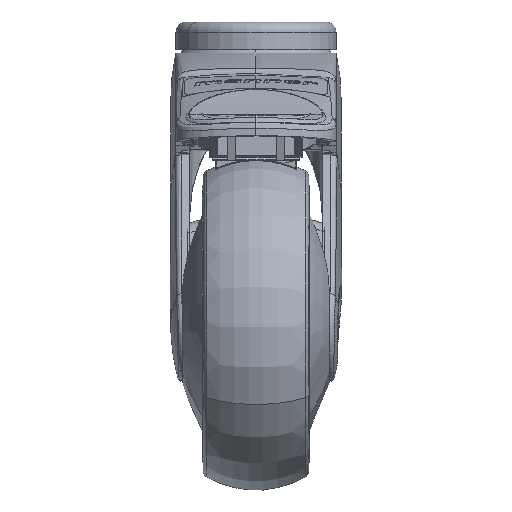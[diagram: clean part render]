
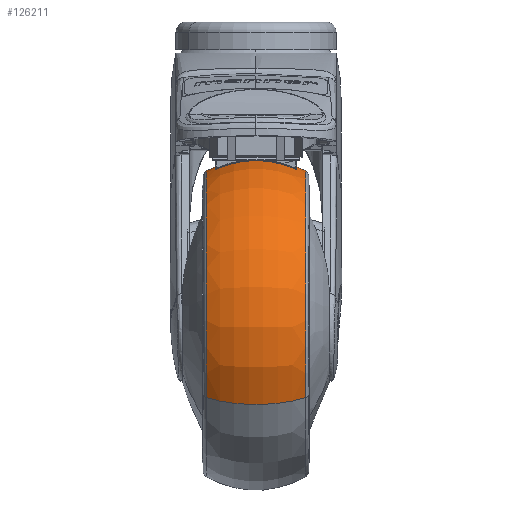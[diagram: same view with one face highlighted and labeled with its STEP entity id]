
A CAD part, left-side view. The second image highlights one B-rep face of the part: STEP entity #126211.
In plain terms, the highlighted toroidal (fillet/blend) face has major radius 22 mm and minor radius 28 mm.
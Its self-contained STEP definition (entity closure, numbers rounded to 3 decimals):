
#85085 = VERTEX_POINT ( 'NONE', #100023 ) ;
#85087 = VERTEX_POINT ( 'NONE', #100022 ) ;
#85602 = VERTEX_POINT ( 'NONE', #116355 ) ;
#86747 = VERTEX_POINT ( 'NONE', #116383 ) ;
#87797 = EDGE_CURVE ( 'NONE', #85085, #86747, #116431, .T. ) ;
#88427 = ORIENTED_EDGE ( 'NONE', *, *, #87797, .F. ) ;
#100022 = CARTESIAN_POINT ( 'NONE',  ( -4.904, -14.808, 41.061 ) ) ;
#100023 = CARTESIAN_POINT ( 'NONE',  ( -85.096, 14.808, -3.061 ) ) ;
#116355 = CARTESIAN_POINT ( 'NONE',  ( -85.096, -14.808, -3.061 ) ) ;
#116383 = CARTESIAN_POINT ( 'NONE',  ( -4.904, 14.808, 41.061 ) ) ;
#116427 = DIRECTION ( 'NONE',  ( -0.876, 0., -0.482 ) ) ;
#116428 = DIRECTION ( 'NONE',  ( 0., 1., 0. ) ) ;
#116429 = CARTESIAN_POINT ( 'NONE',  ( -45., 14.808, 19. ) ) ;
#116430 = AXIS2_PLACEMENT_3D ( 'NONE', #116429, #116428, #116427 ) ;
#116431 = CIRCLE ( 'NONE', #116430, 45.764 ) ;
#122542 = EDGE_LOOP ( 'NONE', ( #124329, #123069, #88427, #129287 ) ) ;
#123069 = ORIENTED_EDGE ( 'NONE', *, *, #123099, .T. ) ;
#123099 = EDGE_CURVE ( 'NONE', #85087, #86747, #145809, .T. ) ;
#124329 = ORIENTED_EDGE ( 'NONE', *, *, #124338, .T. ) ;
#124338 = EDGE_CURVE ( 'NONE', #85602, #85087, #146064, .T. ) ;
#126211 = ADVANCED_FACE ( 'NONE', ( #146421 ), #146420, .T. ) ;
#129064 = EDGE_CURVE ( 'NONE', #85602, #85085, #147314, .T. ) ;
#129287 = ORIENTED_EDGE ( 'NONE', *, *, #129064, .F. ) ;
#145807 = CARTESIAN_POINT ( 'NONE',  ( -25.725, 0., 29.605 ) ) ;
#145809 = CIRCLE ( 'NONE', #145922, 28. ) ;
#145919 = DIRECTION ( 'NONE',  ( 0.876, 0., 0.482 ) ) ;
#145921 = DIRECTION ( 'NONE',  ( -0.482, 0., 0.876 ) ) ;
#145922 = AXIS2_PLACEMENT_3D ( 'NONE', #145807, #145921, #145919 ) ;
#146057 = DIRECTION ( 'NONE',  ( -0.876, 0., -0.482 ) ) ;
#146059 = DIRECTION ( 'NONE',  ( 0., 1., 0. ) ) ;
#146060 = CARTESIAN_POINT ( 'NONE',  ( -45., -14.808, 19. ) ) ;
#146062 = AXIS2_PLACEMENT_3D ( 'NONE', #146060, #146059, #146057 ) ;
#146064 = CIRCLE ( 'NONE', #146062, 45.764 ) ;
#146405 = DIRECTION ( 'NONE',  ( -0.876, 0., -0.482 ) ) ;
#146416 = AXIS2_PLACEMENT_3D ( 'NONE', #146418, #146417, #146405 ) ;
#146417 = DIRECTION ( 'NONE',  ( 0., 1., 0. ) ) ;
#146418 = CARTESIAN_POINT ( 'NONE',  ( -45., 0., 19. ) ) ;
#146420 = TOROIDAL_SURFACE ( 'NONE', #146416, 22., 28. ) ;
#146421 = FACE_OUTER_BOUND ( 'NONE', #122542, .T. ) ;
#147306 = DIRECTION ( 'NONE',  ( -0.876, 0., -0.482 ) ) ;
#147308 = DIRECTION ( 'NONE',  ( 0.482, 0., -0.876 ) ) ;
#147310 = CARTESIAN_POINT ( 'NONE',  ( -64.275, 0., 8.395 ) ) ;
#147312 = AXIS2_PLACEMENT_3D ( 'NONE', #147310, #147308, #147306 ) ;
#147314 = CIRCLE ( 'NONE', #147312, 28. ) ;
